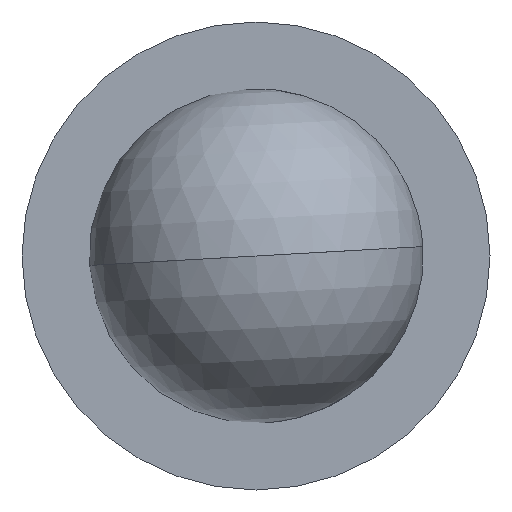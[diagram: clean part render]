
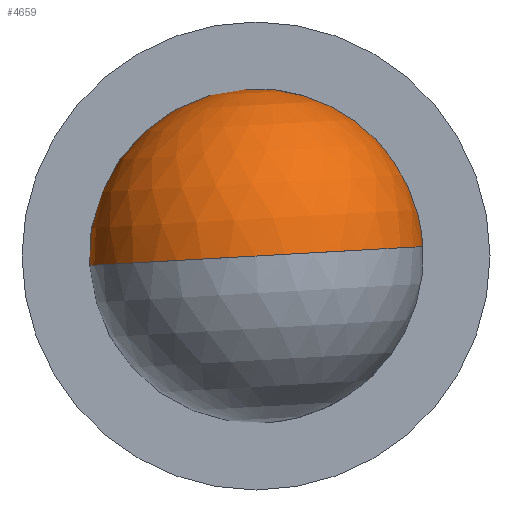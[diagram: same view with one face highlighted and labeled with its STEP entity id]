
A CAD part, front view. The second image highlights one B-rep face of the part: STEP entity #4659.
In plain terms, the highlighted spherical face has radius 50 mm.
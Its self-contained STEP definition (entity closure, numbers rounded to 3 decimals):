
#142 = ORIENTED_EDGE ( 'NONE', *, *, #2198, .T. ) ;
#239 = SPHERICAL_SURFACE ( 'NONE', #1935, 50. ) ;
#307 = DIRECTION ( 'NONE',  ( -1., 0., 0. ) ) ;
#440 = CIRCLE ( 'NONE', #3676, 50. ) ;
#522 = FACE_OUTER_BOUND ( 'NONE', #1890, .T. ) ;
#649 = DIRECTION ( 'NONE',  ( 0., 0., -1. ) ) ;
#980 = VERTEX_POINT ( 'NONE', #1245 ) ;
#1069 = CARTESIAN_POINT ( 'NONE',  ( 0., 0., 0. ) ) ;
#1130 = AXIS2_PLACEMENT_3D ( 'NONE', #2030, #3214, #307 ) ;
#1245 = CARTESIAN_POINT ( 'NONE',  ( 0., -50., 0. ) ) ;
#1292 = CARTESIAN_POINT ( 'NONE',  ( 24., 43.863, 0. ) ) ;
#1363 = CARTESIAN_POINT ( 'NONE',  ( 0., 0., 0. ) ) ;
#1425 = DIRECTION ( 'NONE',  ( 1., 0., 0. ) ) ;
#1448 = EDGE_CURVE ( 'NONE', #980, #1895, #2415, .T. ) ;
#1890 = EDGE_LOOP ( 'NONE', ( #4280, #142, #2887 ) ) ;
#1895 = VERTEX_POINT ( 'NONE', #2701 ) ;
#1935 = AXIS2_PLACEMENT_3D ( 'NONE', #2688, #3718, #3402 ) ;
#1947 = CIRCLE ( 'NONE', #1130, 24. ) ;
#2030 = CARTESIAN_POINT ( 'NONE',  ( 0., 43.863, 0. ) ) ;
#2065 = DIRECTION ( 'NONE',  ( -1., 0., 0. ) ) ;
#2198 = EDGE_CURVE ( 'NONE', #980, #3691, #440, .T. ) ;
#2415 = CIRCLE ( 'NONE', #2934, 50. ) ;
#2688 = CARTESIAN_POINT ( 'NONE',  ( 0., 0., 0. ) ) ;
#2701 = CARTESIAN_POINT ( 'NONE',  ( -24., 43.863, 0. ) ) ;
#2887 = ORIENTED_EDGE ( 'NONE', *, *, #3922, .F. ) ;
#2934 = AXIS2_PLACEMENT_3D ( 'NONE', #1363, #649, #2065 ) ;
#3214 = DIRECTION ( 'NONE',  ( 0., 1., 0. ) ) ;
#3402 = DIRECTION ( 'NONE',  ( 1., 0., 0. ) ) ;
#3637 = DIRECTION ( 'NONE',  ( 0., 0., 1. ) ) ;
#3676 = AXIS2_PLACEMENT_3D ( 'NONE', #1069, #3637, #1425 ) ;
#3691 = VERTEX_POINT ( 'NONE', #1292 ) ;
#3718 = DIRECTION ( 'NONE',  ( 0., 0., -1. ) ) ;
#3922 = EDGE_CURVE ( 'NONE', #1895, #3691, #1947, .T. ) ;
#4280 = ORIENTED_EDGE ( 'NONE', *, *, #1448, .F. ) ;
#4659 = ADVANCED_FACE ( 'NONE', ( #522 ), #239, .T. ) ;
